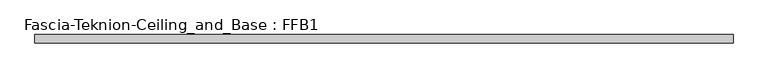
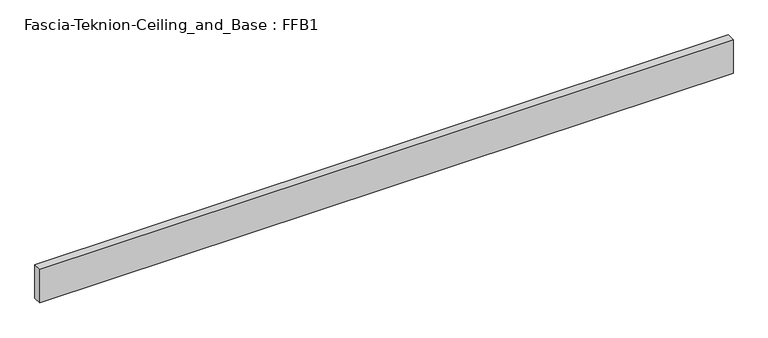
"""IFC4 building model written with IfcOpenShell, lengths in millimetres: proxy geometry, Fascia-Teknion-Ceiling_and_Base : FFB1."""

from ifc_helpers import new_model, si_unit, origin, origin_with_axes, place, context, project, spatial, polyline, outline, extrude, source, transform, mapped, element, save


def fascia_teknion_ceiling_and_base_ffb1_3cc7ad6c(model_context):
    return source(origin(), model_context, "Body", "SweptSolid", [
        extrude(outline(polyline([(795.6407125, 0.0), (-795.6407125, 0.0), (-795.6407125, 19.05), (795.6407125, 19.05), (795.6407125, 0.0)])), origin_with_axes(), (0.0, 0.0, 1.0), 81.28),
    ])


if __name__ == "__main__":
    model = new_model("IFC4")
    model_context = context("Model", 3, world=origin())
    ifc_project = project(units=[si_unit("LENGTHUNIT", "METRE", prefix="MILLI")], contexts=[model_context])
    site = spatial("IfcSite", under=ifc_project)
    building = spatial("IfcBuilding", under=site)
    placement = place(None, origin())
    fascia_teknion_ceiling_and_base_ffb1_shape = fascia_teknion_ceiling_and_base_ffb1_3cc7ad6c(model_context)
    element("IfcBuildingElementProxy", 1, Name="Fascia-Teknion-Ceiling_and_Base : FFB1", ObjectType="Fascia-Teknion-Ceiling_and_Base : FFB1", at=placement, inside=building, context=model_context, shape_type="MappedRepresentation", body=[
        mapped(fascia_teknion_ceiling_and_base_ffb1_shape, transform((0.0, 0.0, 0.0), x_axis=(1.0, 0.0, 0.0), y_axis=(0.0, 1.0, 0.0), z_axis=(0.0, 0.0, 1.0))),
    ])
    save(model, "model.ifc")
